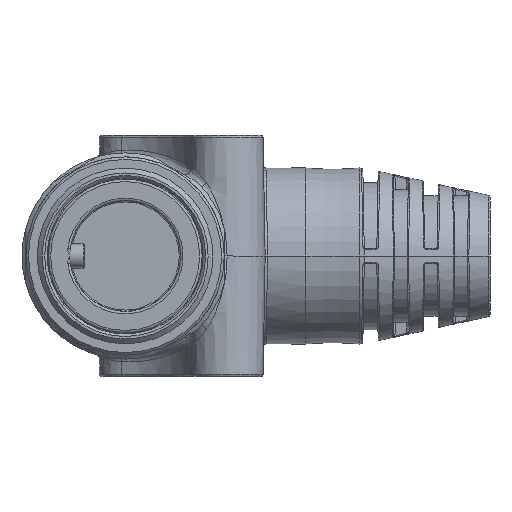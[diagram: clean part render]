
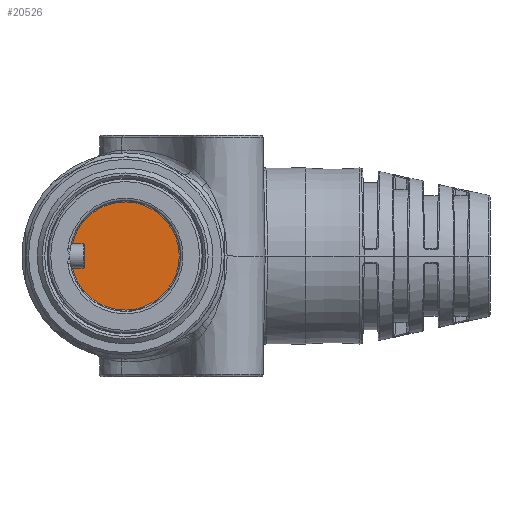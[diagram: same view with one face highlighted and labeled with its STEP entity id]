
A CAD part, left-side view. The second image highlights one B-rep face of the part: STEP entity #20526.
In plain terms, the highlighted planar face has unit normal (-1, 0, 0).
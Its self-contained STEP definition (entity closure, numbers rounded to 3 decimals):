
#1186=LINE('',#29722,#2884);
#1351=LINE('',#33624,#3049);
#1352=LINE('',#33626,#3050);
#2884=VECTOR('',#23573,10.);
#3049=VECTOR('',#24546,10.);
#3050=VECTOR('',#24549,10.);
#4589=PLANE('',#21972);
#5560=FACE_OUTER_BOUND('',#6782,.T.);
#6782=EDGE_LOOP('',(#14716,#14717,#14718,#14719,#14720,#14721));
#7828=CIRCLE('',#21567,0.25);
#7991=CIRCLE('',#21973,10.75);
#7992=CIRCLE('',#21974,0.25);
#8544=VERTEX_POINT('',#29709);
#8547=VERTEX_POINT('',#29714);
#8549=VERTEX_POINT('',#29719);
#8883=VERTEX_POINT('',#33620);
#8884=VERTEX_POINT('',#33621);
#8885=VERTEX_POINT('',#33623);
#10514=EDGE_CURVE('',#8547,#8544,#7828,.F.);
#10517=EDGE_CURVE('',#8549,#8544,#1186,.T.);
#11057=EDGE_CURVE('',#8883,#8884,#7991,.T.);
#11058=EDGE_CURVE('',#8883,#8885,#1351,.T.);
#11059=EDGE_CURVE('',#8549,#8885,#7992,.F.);
#11060=EDGE_CURVE('',#8547,#8884,#1352,.T.);
#14716=ORIENTED_EDGE('',*,*,#11057,.F.);
#14717=ORIENTED_EDGE('',*,*,#11058,.T.);
#14718=ORIENTED_EDGE('',*,*,#11059,.F.);
#14719=ORIENTED_EDGE('',*,*,#10517,.T.);
#14720=ORIENTED_EDGE('',*,*,#10514,.F.);
#14721=ORIENTED_EDGE('',*,*,#11060,.T.);
#20526=ADVANCED_FACE('',(#5560),#4589,.F.);
#21567=AXIS2_PLACEMENT_3D('',#29716,#23566,#23567);
#21972=AXIS2_PLACEMENT_3D('',#33619,#24542,#24543);
#21973=AXIS2_PLACEMENT_3D('',#33622,#24544,#24545);
#21974=AXIS2_PLACEMENT_3D('',#33625,#24547,#24548);
#23566=DIRECTION('center_axis',(1.,0.,0.));
#23567=DIRECTION('ref_axis',(0.,-0.707,-0.707));
#23573=DIRECTION('',(0.,0.,-1.));
#24542=DIRECTION('center_axis',(1.,0.,0.));
#24543=DIRECTION('ref_axis',(0.,0.,-1.));
#24544=DIRECTION('center_axis',(1.,0.,0.));
#24545=DIRECTION('ref_axis',(0.,-1.,0.));
#24546=DIRECTION('',(0.,-1.,0.));
#24547=DIRECTION('center_axis',(1.,0.,0.));
#24548=DIRECTION('ref_axis',(0.,-0.707,0.707));
#24549=DIRECTION('',(0.,1.,0.));
#29709=CARTESIAN_POINT('',(-48.287,39.1,-2.15));
#29714=CARTESIAN_POINT('',(-48.287,39.35,-2.4));
#29716=CARTESIAN_POINT('Origin',(-48.287,39.35,-2.15));
#29719=CARTESIAN_POINT('',(-48.287,39.1,2.15));
#29722=CARTESIAN_POINT('',(-48.287,39.1,0.));
#33619=CARTESIAN_POINT('Origin',(-48.287,36.5,0.));
#33620=CARTESIAN_POINT('',(-48.287,41.479,2.4));
#33621=CARTESIAN_POINT('',(-48.287,41.479,-2.4));
#33622=CARTESIAN_POINT('Origin',(-48.287,31.,0.));
#33623=CARTESIAN_POINT('',(-48.287,39.35,2.4));
#33624=CARTESIAN_POINT('',(-48.287,37.8,2.4));
#33625=CARTESIAN_POINT('Origin',(-48.287,39.35,2.15));
#33626=CARTESIAN_POINT('',(-48.287,37.8,-2.4));
